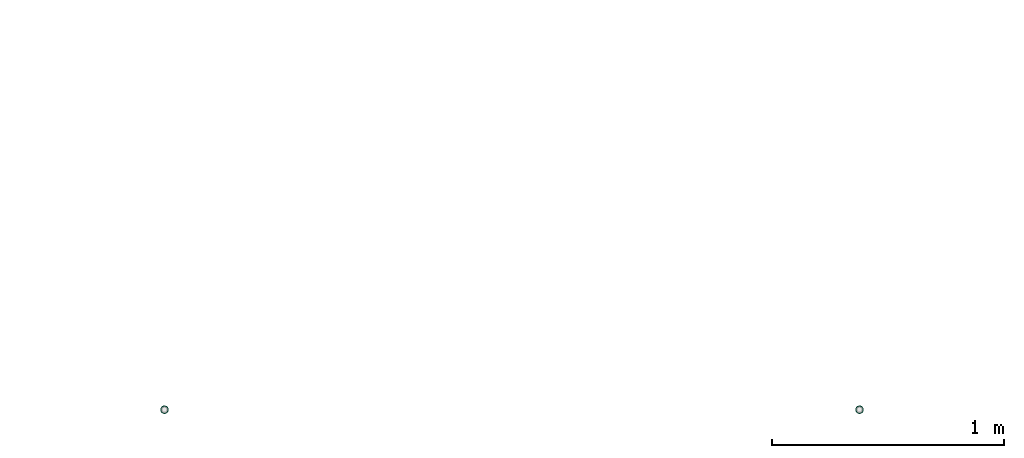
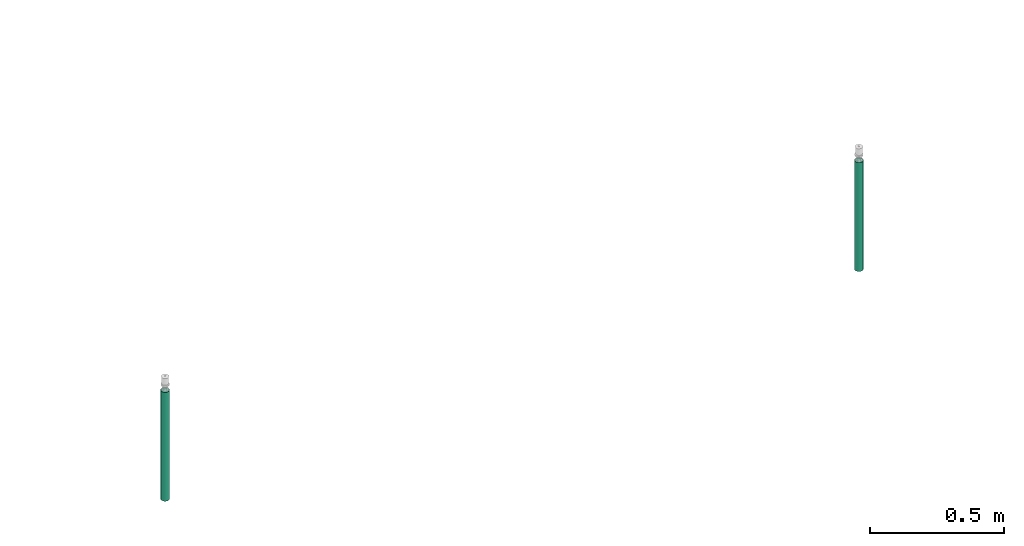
# One storey, part 37 of 44: 2 flow segments.
"""IFC2X3 building model written with IfcOpenShell, lengths in millimetres."""

from ifc_helpers import new_model, entity, si_unit, converted_unit, derived_unit, direction, frame, place, context, subcontext, project, spatial, faceted_brep, type_object, element, save


model = new_model("IFC2X3")

# Units and contexts
model_context = context("Model", 3, precision=0.01, world=frame((0.0, 4.29681676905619e-09, 0.0)), true_north=direction((4.01073788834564e-13, 1.0)))
plan_context = context("Plan", 3, precision=0.01, world=frame((0.0, 4.29681676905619e-09, 0.0)), true_north=direction((4.01073788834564e-13, 1.0)))
body_context = subcontext(model_context, "Body", "Model", "MODEL_VIEW")
ifc_project = project(units=[converted_unit("PLANEANGLEUNIT", "DEGREE", entity("IfcPositiveLengthMeasure", 0.0174532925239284), si_unit("PLANEANGLEUNIT", "RADIAN"), dimensions=[0, 0, 0, 0, 0, 0, 0]), si_unit("AREAUNIT", "SQUARE_METRE"), si_unit("LENGTHUNIT", "METRE", prefix="MILLI"), si_unit("MASSUNIT", "GRAM", prefix="KILO"), si_unit("POWERUNIT", "WATT"), si_unit("PRESSUREUNIT", "PASCAL"), si_unit("FORCEUNIT", "NEWTON", prefix="KILO"), si_unit("ELECTRICVOLTAGEUNIT", "VOLT"), si_unit("ELECTRICCURRENTUNIT", "AMPERE"), si_unit("THERMODYNAMICTEMPERATUREUNIT", "DEGREE_CELSIUS"), si_unit("TIMEUNIT", "SECOND"), si_unit("VOLUMEUNIT", "CUBIC_METRE"), derived_unit("LINEARVELOCITYUNIT", [(si_unit("LENGTHUNIT", "METRE"), 1), (si_unit("TIMEUNIT", "SECOND"), -1)]), derived_unit("VOLUMETRICFLOWRATEUNIT", [(si_unit("VOLUMEUNIT", "CUBIC_METRE"), 1), (si_unit("TIMEUNIT", "SECOND"), -1)]), derived_unit("THERMALTRANSMITTANCEUNIT", [(si_unit("POWERUNIT", "WATT"), 1), (si_unit("THERMODYNAMICTEMPERATUREUNIT", "KELVIN"), -1), (si_unit("AREAUNIT", "SQUARE_METRE"), -1)]), derived_unit("SOUNDPRESSUREUNIT", [(si_unit("PRESSUREUNIT", "PASCAL"), 1)])], contexts=[model_context, plan_context])

# Site, building, storey
site_placement = place(None, frame((0.0, -4.29681676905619e-09, 0.0), z_axis=(0.0, 0.0, 1.0), x_axis=(1.0, 0.0, 0.0)))
site = spatial("IfcSite", under=ifc_project, at=site_placement, CompositionType="ELEMENT")
building_placement = place(site_placement, frame((0.0, 4.29681676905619e-09, 0.0), z_axis=(0.0, 0.0, 1.0), x_axis=(1.0, 0.0, 0.0)))
building = spatial("IfcBuilding", under=site, at=building_placement, Name="mc-building", CompositionType="ELEMENT")
storey_placement = place(building_placement, frame((0.0, 0.0, 207370.0), z_axis=(0.0, 0.0, 1.0), x_axis=(1.0, 0.0, 0.0)))
storey = spatial("IfcBuildingStorey", under=building, at=storey_placement, Name="Nivå E", CompositionType="ELEMENT", Elevation=207370.0)

# Flow segments
pipe_segment_type = type_object("IfcPipeSegmentType", Name="Stålrør normaltykke", PredefinedType="RIGIDSEGMENT")
flow_segment_1_placement = place(storey_placement, frame((533500.0, 441009.83177, 3027.60555000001), z_axis=(-1.0, 0.0, 0.0), x_axis=(0.0, 0.0, -1.0)))
element("IfcFlowSegment", 1, at=flow_segment_1_placement, inside=storey, type_object=pipe_segment_type, Name="Stålrør normaltykke", context=body_context, shape_type="Brep", body=[
    faceted_brep([(497.605550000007, 14.9, 0.0), (497.605550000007, 14.6736355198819, -2.58735784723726), (0.0, 14.6736355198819, -2.58735784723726), (0.0, 14.9, 0.0), (497.605550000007, 14.00142004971, -5.09610013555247), (0.0, 14.00142004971, -5.09610013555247), (497.605550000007, 12.9037785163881, -7.45000000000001), (0.0, 12.9037785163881, -7.45000000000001), (497.605550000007, 11.4140622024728, -9.57753538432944), (0.0, 11.4140622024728, -9.57753538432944), (497.605550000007, 9.57753538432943, -11.4140622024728), (0.0, 9.57753538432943, -11.4140622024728), (497.605550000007, 7.45, -12.9037785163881), (0.0, 7.45, -12.9037785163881), (497.605550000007, 5.09610013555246, -14.00142004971), (0.0, 5.09610013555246, -14.00142004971), (497.605550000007, 2.58735784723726, -14.6736355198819), (0.0, 2.58735784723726, -14.6736355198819), (497.605550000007, -2.73708559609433e-15, -14.9), (0.0, -2.73708559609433e-15, -14.9), (497.605550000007, -2.58735784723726, -14.6736355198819), (0.0, -2.58735784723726, -14.6736355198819), (497.605550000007, -5.09610013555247, -14.00142004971), (0.0, -5.09610013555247, -14.00142004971), (497.605550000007, -7.45000000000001, -12.9037785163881), (0.0, -7.45000000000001, -12.9037785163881), (497.605550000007, -9.57753538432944, -11.4140622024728), (0.0, -9.57753538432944, -11.4140622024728), (497.605550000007, -11.4140622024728, -9.57753538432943), (0.0, -11.4140622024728, -9.57753538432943), (497.605550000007, -12.9037785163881, -7.44999999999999), (0.0, -12.9037785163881, -7.44999999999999), (497.605550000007, -14.00142004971, -5.09610013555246), (0.0, -14.00142004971, -5.09610013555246), (497.605550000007, -14.6736355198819, -2.58735784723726), (0.0, -14.6736355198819, -2.58735784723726), (497.605550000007, -14.9, 1.82472373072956e-15), (0.0, -14.9, 1.82472373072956e-15), (497.605550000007, -14.6736355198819, 2.58735784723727), (0.0, -14.6736355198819, 2.58735784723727), (497.605550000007, -14.00142004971, 5.09610013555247), (0.0, -14.00142004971, 5.09610013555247), (497.605550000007, -12.9037785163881, 7.45), (0.0, -12.9037785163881, 7.45), (497.605550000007, -11.4140622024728, 9.57753538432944), (0.0, -11.4140622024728, 9.57753538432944), (497.605550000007, -9.57753538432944, 11.4140622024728), (0.0, -9.57753538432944, 11.4140622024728), (497.605550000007, -7.45, 12.9037785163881), (0.0, -7.45, 12.9037785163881), (497.605550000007, -5.09610013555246, 14.00142004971), (0.0, -5.09610013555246, 14.00142004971), (497.605550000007, -2.58735784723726, 14.6736355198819), (0.0, -2.58735784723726, 14.6736355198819), (497.605550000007, 9.12361865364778e-16, 14.9), (0.0, 9.12361865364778e-16, 14.9), (497.605550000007, 2.58735784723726, 14.6736355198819), (0.0, 2.58735784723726, 14.6736355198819), (497.605550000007, 5.09610013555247, 14.00142004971), (0.0, 5.09610013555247, 14.00142004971), (497.605550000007, 7.45, 12.9037785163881), (0.0, 7.45, 12.9037785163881), (497.605550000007, 9.57753538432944, 11.4140622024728), (0.0, 9.57753538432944, 11.4140622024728), (497.605550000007, 11.4140622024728, 9.57753538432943), (0.0, 11.4140622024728, 9.57753538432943), (497.605550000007, 12.9037785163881, 7.45), (0.0, 12.9037785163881, 7.45), (497.605550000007, 14.00142004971, 5.09610013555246), (0.0, 14.00142004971, 5.09610013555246), (497.605550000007, 14.6736355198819, 2.58735784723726), (0.0, 14.6736355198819, 2.58735784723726), (497.605550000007, 16.6432510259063, -2.93465420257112), (497.605550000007, 16.9, 0.0), (0.0, 16.9, 0.0), (0.0, 16.6432510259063, -2.93465420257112), (497.605550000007, 16.6432510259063, 2.93465420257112), (0.0, 16.6432510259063, 2.93465420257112), (497.605550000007, 15.8808052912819, 5.7801404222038), (0.0, 15.8808052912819, 5.7801404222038), (497.605550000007, 14.635829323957, 8.45), (0.0, 14.635829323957, 8.45), (497.605550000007, 12.9461510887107, 10.8631106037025), (0.0, 12.9461510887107, 10.8631106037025), (497.605550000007, 10.8631106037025, 12.9461510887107), (0.0, 10.8631106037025, 12.9461510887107), (497.605550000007, 8.45, 14.635829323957), (0.0, 8.45, 14.635829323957), (497.605550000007, 5.7801404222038, 15.8808052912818), (0.0, 5.7801404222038, 15.8808052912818), (497.605550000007, 2.93465420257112, 16.6432510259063), (0.0, 2.93465420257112, 16.6432510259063), (497.605550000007, 1.03482654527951e-15, 16.9), (0.0, 1.03482654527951e-15, 16.9), (497.605550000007, -2.93465420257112, 16.6432510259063), (0.0, -2.93465420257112, 16.6432510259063), (497.605550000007, -5.7801404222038, 15.8808052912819), (0.0, -5.7801404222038, 15.8808052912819), (497.605550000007, -8.45, 14.635829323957), (0.0, -8.45, 14.635829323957), (497.605550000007, -10.8631106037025, 12.9461510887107), (0.0, -10.8631106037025, 12.9461510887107), (497.605550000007, -12.9461510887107, 10.8631106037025), (0.0, -12.9461510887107, 10.8631106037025), (497.605550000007, -14.635829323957, 8.45), (0.0, -14.635829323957, 8.45), (497.605550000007, -15.8808052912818, 5.7801404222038), (0.0, -15.8808052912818, 5.7801404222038), (497.605550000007, -16.6432510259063, 2.93465420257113), (0.0, -16.6432510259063, 2.93465420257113), (497.605550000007, -16.9, 2.06965309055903e-15), (0.0, -16.9, 2.06965309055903e-15), (497.605550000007, -16.6432510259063, -2.93465420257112), (0.0, -16.6432510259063, -2.93465420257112), (497.605550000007, -15.8808052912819, -5.7801404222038), (0.0, -15.8808052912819, -5.7801404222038), (497.605550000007, -14.635829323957, -8.44999999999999), (0.0, -14.635829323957, -8.44999999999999), (497.605550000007, -12.9461510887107, -10.8631106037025), (0.0, -12.9461510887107, -10.8631106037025), (497.605550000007, -10.8631106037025, -12.9461510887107), (0.0, -10.8631106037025, -12.9461510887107), (497.605550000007, -8.45000000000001, -14.635829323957), (0.0, -8.45000000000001, -14.635829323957), (497.605550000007, -5.78014042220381, -15.8808052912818), (0.0, -5.78014042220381, -15.8808052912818), (497.605550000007, -2.93465420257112, -16.6432510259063), (0.0, -2.93465420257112, -16.6432510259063), (497.605550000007, -3.10447963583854e-15, -16.9), (0.0, -3.10447963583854e-15, -16.9), (497.605550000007, 2.93465420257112, -16.6432510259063), (0.0, 2.93465420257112, -16.6432510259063), (497.605550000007, 5.78014042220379, -15.8808052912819), (0.0, 5.78014042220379, -15.8808052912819), (497.605550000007, 8.45, -14.635829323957), (0.0, 8.45, -14.635829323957), (497.605550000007, 10.8631106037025, -12.9461510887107), (0.0, 10.8631106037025, -12.9461510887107), (497.605550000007, 12.9461510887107, -10.8631106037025), (0.0, 12.9461510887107, -10.8631106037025), (497.605550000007, 14.635829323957, -8.45000000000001), (0.0, 14.635829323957, -8.45000000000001), (497.605550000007, 15.8808052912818, -5.78014042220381), (0.0, 15.8808052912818, -5.78014042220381)], [[[0, 1, 2, 3]], [[1, 4, 5, 2]], [[4, 6, 7, 5]], [[6, 8, 9, 7]], [[8, 10, 11, 9]], [[10, 12, 13, 11]], [[12, 14, 15, 13]], [[14, 16, 17, 15]], [[16, 18, 19, 17]], [[18, 20, 21, 19]], [[20, 22, 23, 21]], [[22, 24, 25, 23]], [[24, 26, 27, 25]], [[26, 28, 29, 27]], [[28, 30, 31, 29]], [[30, 32, 33, 31]], [[32, 34, 35, 33]], [[34, 36, 37, 35]], [[36, 38, 39, 37]], [[38, 40, 41, 39]], [[40, 42, 43, 41]], [[42, 44, 45, 43]], [[44, 46, 47, 45]], [[46, 48, 49, 47]], [[48, 50, 51, 49]], [[50, 52, 53, 51]], [[52, 54, 55, 53]], [[54, 56, 57, 55]], [[56, 58, 59, 57]], [[58, 60, 61, 59]], [[60, 62, 63, 61]], [[62, 64, 65, 63]], [[64, 66, 67, 65]], [[66, 68, 69, 67]], [[68, 70, 71, 69]], [[70, 0, 3, 71]], [[72, 73, 74, 75]], [[73, 76, 77, 74]], [[76, 78, 79, 77]], [[78, 80, 81, 79]], [[80, 82, 83, 81]], [[82, 84, 85, 83]], [[84, 86, 87, 85]], [[86, 88, 89, 87]], [[88, 90, 91, 89]], [[90, 92, 93, 91]], [[92, 94, 95, 93]], [[94, 96, 97, 95]], [[96, 98, 99, 97]], [[98, 100, 101, 99]], [[100, 102, 103, 101]], [[102, 104, 105, 103]], [[104, 106, 107, 105]], [[106, 108, 109, 107]], [[108, 110, 111, 109]], [[110, 112, 113, 111]], [[112, 114, 115, 113]], [[114, 116, 117, 115]], [[116, 118, 119, 117]], [[118, 120, 121, 119]], [[120, 122, 123, 121]], [[122, 124, 125, 123]], [[124, 126, 127, 125]], [[126, 128, 129, 127]], [[128, 130, 131, 129]], [[130, 132, 133, 131]], [[132, 134, 135, 133]], [[134, 136, 137, 135]], [[136, 138, 139, 137]], [[138, 140, 141, 139]], [[140, 142, 143, 141]], [[142, 72, 75, 143]], [[75, 74, 77, 79, 81, 83, 85, 87, 89, 91, 93, 95, 97, 99, 101, 103, 105, 107, 109, 111, 113, 115, 117, 119, 121, 123, 125, 127, 129, 131, 133, 135, 137, 139, 141, 143], [3, 2, 5, 7, 9, 11, 13, 15, 17, 19, 21, 23, 25, 27, 29, 31, 33, 35, 37, 39, 41, 43, 45, 47, 49, 51, 53, 55, 57, 59, 61, 63, 65, 67, 69, 71]], [[142, 140, 138, 136, 134, 132, 130, 128, 126, 124, 122, 120, 118, 116, 114, 112, 110, 108, 106, 104, 102, 100, 98, 96, 94, 92, 90, 88, 86, 84, 82, 80, 78, 76, 73, 72], [70, 68, 66, 64, 62, 60, 58, 56, 54, 52, 50, 48, 46, 44, 42, 40, 38, 36, 34, 32, 30, 28, 26, 24, 22, 20, 18, 16, 14, 12, 10, 8, 6, 4, 1, 0]]], orient=[[False], [False], [False], [False], [False], [False], [False], [False], [False], [False], [False], [False], [False], [False], [False], [False], [False], [False], [False], [False], [False], [False], [False], [False], [False], [False], [False], [False], [False], [False], [False], [False], [False], [False], [False], [False], [False], [False], [False], [False], [False], [False], [False], [False], [False], [False], [False], [False], [False], [False], [False], [False], [False], [False], [False], [False], [False], [False], [False], [False], [False], [False], [False], [False], [False], [False], [False], [False], [False], [False], [False], [False], [False, False], [False, False]]),
])
flow_segment_2_placement = place(storey_placement, frame((530500.0, 441009.83177, 3027.60555000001), z_axis=(1.0, 0.0, 0.0), x_axis=(0.0, 0.0, -1.0)))
element("IfcFlowSegment", 2, at=flow_segment_2_placement, inside=storey, type_object=pipe_segment_type, Name="Stålrør normaltykke", context=body_context, shape_type="Brep", body=[
    faceted_brep([(497.605550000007, 14.9, 0.0), (497.605550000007, 14.6736355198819, -2.58735784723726), (0.0, 14.6736355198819, -2.58735784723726), (0.0, 14.9, 0.0), (497.605550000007, 14.00142004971, -5.09610013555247), (0.0, 14.00142004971, -5.09610013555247), (497.605550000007, 12.9037785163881, -7.45000000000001), (0.0, 12.9037785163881, -7.45000000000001), (497.605550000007, 11.4140622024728, -9.57753538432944), (0.0, 11.4140622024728, -9.57753538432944), (497.605550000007, 9.57753538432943, -11.4140622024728), (0.0, 9.57753538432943, -11.4140622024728), (497.605550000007, 7.45, -12.9037785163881), (0.0, 7.45, -12.9037785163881), (497.605550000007, 5.09610013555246, -14.00142004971), (0.0, 5.09610013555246, -14.00142004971), (497.605550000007, 2.58735784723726, -14.6736355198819), (0.0, 2.58735784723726, -14.6736355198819), (497.605550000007, -2.73708559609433e-15, -14.9), (0.0, -2.73708559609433e-15, -14.9), (497.605550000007, -2.58735784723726, -14.6736355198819), (0.0, -2.58735784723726, -14.6736355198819), (497.605550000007, -5.09610013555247, -14.00142004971), (0.0, -5.09610013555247, -14.00142004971), (497.605550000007, -7.45000000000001, -12.9037785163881), (0.0, -7.45000000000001, -12.9037785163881), (497.605550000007, -9.57753538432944, -11.4140622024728), (0.0, -9.57753538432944, -11.4140622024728), (497.605550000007, -11.4140622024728, -9.57753538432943), (0.0, -11.4140622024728, -9.57753538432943), (497.605550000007, -12.9037785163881, -7.44999999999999), (0.0, -12.9037785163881, -7.44999999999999), (497.605550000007, -14.00142004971, -5.09610013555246), (0.0, -14.00142004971, -5.09610013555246), (497.605550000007, -14.6736355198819, -2.58735784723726), (0.0, -14.6736355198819, -2.58735784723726), (497.605550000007, -14.9, 1.82472373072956e-15), (0.0, -14.9, 1.82472373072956e-15), (497.605550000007, -14.6736355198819, 2.58735784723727), (0.0, -14.6736355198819, 2.58735784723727), (497.605550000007, -14.00142004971, 5.09610013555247), (0.0, -14.00142004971, 5.09610013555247), (497.605550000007, -12.9037785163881, 7.45), (0.0, -12.9037785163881, 7.45), (497.605550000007, -11.4140622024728, 9.57753538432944), (0.0, -11.4140622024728, 9.57753538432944), (497.605550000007, -9.57753538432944, 11.4140622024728), (0.0, -9.57753538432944, 11.4140622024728), (497.605550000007, -7.45, 12.9037785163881), (0.0, -7.45, 12.9037785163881), (497.605550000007, -5.09610013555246, 14.00142004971), (0.0, -5.09610013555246, 14.00142004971), (497.605550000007, -2.58735784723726, 14.6736355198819), (0.0, -2.58735784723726, 14.6736355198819), (497.605550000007, 9.12361865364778e-16, 14.9), (0.0, 9.12361865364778e-16, 14.9), (497.605550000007, 2.58735784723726, 14.6736355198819), (0.0, 2.58735784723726, 14.6736355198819), (497.605550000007, 5.09610013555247, 14.00142004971), (0.0, 5.09610013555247, 14.00142004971), (497.605550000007, 7.45, 12.9037785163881), (0.0, 7.45, 12.9037785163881), (497.605550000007, 9.57753538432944, 11.4140622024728), (0.0, 9.57753538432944, 11.4140622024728), (497.605550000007, 11.4140622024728, 9.57753538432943), (0.0, 11.4140622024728, 9.57753538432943), (497.605550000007, 12.9037785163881, 7.45), (0.0, 12.9037785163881, 7.45), (497.605550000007, 14.00142004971, 5.09610013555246), (0.0, 14.00142004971, 5.09610013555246), (497.605550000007, 14.6736355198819, 2.58735784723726), (0.0, 14.6736355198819, 2.58735784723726), (497.605550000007, 16.6432510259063, -2.93465420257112), (497.605550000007, 16.9, 0.0), (0.0, 16.9, 0.0), (0.0, 16.6432510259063, -2.93465420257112), (497.605550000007, 16.6432510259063, 2.93465420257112), (0.0, 16.6432510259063, 2.93465420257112), (497.605550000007, 15.8808052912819, 5.7801404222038), (0.0, 15.8808052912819, 5.7801404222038), (497.605550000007, 14.635829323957, 8.45), (0.0, 14.635829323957, 8.45), (497.605550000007, 12.9461510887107, 10.8631106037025), (0.0, 12.9461510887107, 10.8631106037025), (497.605550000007, 10.8631106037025, 12.9461510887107), (0.0, 10.8631106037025, 12.9461510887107), (497.605550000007, 8.45, 14.635829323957), (0.0, 8.45, 14.635829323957), (497.605550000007, 5.7801404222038, 15.8808052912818), (0.0, 5.7801404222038, 15.8808052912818), (497.605550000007, 2.93465420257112, 16.6432510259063), (0.0, 2.93465420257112, 16.6432510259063), (497.605550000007, 1.03482654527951e-15, 16.9), (0.0, 1.03482654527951e-15, 16.9), (497.605550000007, -2.93465420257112, 16.6432510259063), (0.0, -2.93465420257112, 16.6432510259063), (497.605550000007, -5.7801404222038, 15.8808052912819), (0.0, -5.7801404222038, 15.8808052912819), (497.605550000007, -8.45, 14.635829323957), (0.0, -8.45, 14.635829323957), (497.605550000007, -10.8631106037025, 12.9461510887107), (0.0, -10.8631106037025, 12.9461510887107), (497.605550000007, -12.9461510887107, 10.8631106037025), (0.0, -12.9461510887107, 10.8631106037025), (497.605550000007, -14.635829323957, 8.45), (0.0, -14.635829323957, 8.45), (497.605550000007, -15.8808052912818, 5.7801404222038), (0.0, -15.8808052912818, 5.7801404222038), (497.605550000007, -16.6432510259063, 2.93465420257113), (0.0, -16.6432510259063, 2.93465420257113), (497.605550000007, -16.9, 2.06965309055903e-15), (0.0, -16.9, 2.06965309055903e-15), (497.605550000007, -16.6432510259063, -2.93465420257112), (0.0, -16.6432510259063, -2.93465420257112), (497.605550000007, -15.8808052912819, -5.7801404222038), (0.0, -15.8808052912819, -5.7801404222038), (497.605550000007, -14.635829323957, -8.44999999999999), (0.0, -14.635829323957, -8.44999999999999), (497.605550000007, -12.9461510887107, -10.8631106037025), (0.0, -12.9461510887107, -10.8631106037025), (497.605550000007, -10.8631106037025, -12.9461510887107), (0.0, -10.8631106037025, -12.9461510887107), (497.605550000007, -8.45000000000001, -14.635829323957), (0.0, -8.45000000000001, -14.635829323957), (497.605550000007, -5.78014042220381, -15.8808052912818), (0.0, -5.78014042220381, -15.8808052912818), (497.605550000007, -2.93465420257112, -16.6432510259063), (0.0, -2.93465420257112, -16.6432510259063), (497.605550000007, -3.10447963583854e-15, -16.9), (0.0, -3.10447963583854e-15, -16.9), (497.605550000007, 2.93465420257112, -16.6432510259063), (0.0, 2.93465420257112, -16.6432510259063), (497.605550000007, 5.78014042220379, -15.8808052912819), (0.0, 5.78014042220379, -15.8808052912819), (497.605550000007, 8.45, -14.635829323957), (0.0, 8.45, -14.635829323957), (497.605550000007, 10.8631106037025, -12.9461510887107), (0.0, 10.8631106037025, -12.9461510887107), (497.605550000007, 12.9461510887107, -10.8631106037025), (0.0, 12.9461510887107, -10.8631106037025), (497.605550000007, 14.635829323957, -8.45000000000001), (0.0, 14.635829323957, -8.45000000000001), (497.605550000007, 15.8808052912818, -5.78014042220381), (0.0, 15.8808052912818, -5.78014042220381)], [[[0, 1, 2, 3]], [[1, 4, 5, 2]], [[4, 6, 7, 5]], [[6, 8, 9, 7]], [[8, 10, 11, 9]], [[10, 12, 13, 11]], [[12, 14, 15, 13]], [[14, 16, 17, 15]], [[16, 18, 19, 17]], [[18, 20, 21, 19]], [[20, 22, 23, 21]], [[22, 24, 25, 23]], [[24, 26, 27, 25]], [[26, 28, 29, 27]], [[28, 30, 31, 29]], [[30, 32, 33, 31]], [[32, 34, 35, 33]], [[34, 36, 37, 35]], [[36, 38, 39, 37]], [[38, 40, 41, 39]], [[40, 42, 43, 41]], [[42, 44, 45, 43]], [[44, 46, 47, 45]], [[46, 48, 49, 47]], [[48, 50, 51, 49]], [[50, 52, 53, 51]], [[52, 54, 55, 53]], [[54, 56, 57, 55]], [[56, 58, 59, 57]], [[58, 60, 61, 59]], [[60, 62, 63, 61]], [[62, 64, 65, 63]], [[64, 66, 67, 65]], [[66, 68, 69, 67]], [[68, 70, 71, 69]], [[70, 0, 3, 71]], [[72, 73, 74, 75]], [[73, 76, 77, 74]], [[76, 78, 79, 77]], [[78, 80, 81, 79]], [[80, 82, 83, 81]], [[82, 84, 85, 83]], [[84, 86, 87, 85]], [[86, 88, 89, 87]], [[88, 90, 91, 89]], [[90, 92, 93, 91]], [[92, 94, 95, 93]], [[94, 96, 97, 95]], [[96, 98, 99, 97]], [[98, 100, 101, 99]], [[100, 102, 103, 101]], [[102, 104, 105, 103]], [[104, 106, 107, 105]], [[106, 108, 109, 107]], [[108, 110, 111, 109]], [[110, 112, 113, 111]], [[112, 114, 115, 113]], [[114, 116, 117, 115]], [[116, 118, 119, 117]], [[118, 120, 121, 119]], [[120, 122, 123, 121]], [[122, 124, 125, 123]], [[124, 126, 127, 125]], [[126, 128, 129, 127]], [[128, 130, 131, 129]], [[130, 132, 133, 131]], [[132, 134, 135, 133]], [[134, 136, 137, 135]], [[136, 138, 139, 137]], [[138, 140, 141, 139]], [[140, 142, 143, 141]], [[142, 72, 75, 143]], [[75, 74, 77, 79, 81, 83, 85, 87, 89, 91, 93, 95, 97, 99, 101, 103, 105, 107, 109, 111, 113, 115, 117, 119, 121, 123, 125, 127, 129, 131, 133, 135, 137, 139, 141, 143], [3, 2, 5, 7, 9, 11, 13, 15, 17, 19, 21, 23, 25, 27, 29, 31, 33, 35, 37, 39, 41, 43, 45, 47, 49, 51, 53, 55, 57, 59, 61, 63, 65, 67, 69, 71]], [[142, 140, 138, 136, 134, 132, 130, 128, 126, 124, 122, 120, 118, 116, 114, 112, 110, 108, 106, 104, 102, 100, 98, 96, 94, 92, 90, 88, 86, 84, 82, 80, 78, 76, 73, 72], [70, 68, 66, 64, 62, 60, 58, 56, 54, 52, 50, 48, 46, 44, 42, 40, 38, 36, 34, 32, 30, 28, 26, 24, 22, 20, 18, 16, 14, 12, 10, 8, 6, 4, 1, 0]]], orient=[[False], [False], [False], [False], [False], [False], [False], [False], [False], [False], [False], [False], [False], [False], [False], [False], [False], [False], [False], [False], [False], [False], [False], [False], [False], [False], [False], [False], [False], [False], [False], [False], [False], [False], [False], [False], [False], [False], [False], [False], [False], [False], [False], [False], [False], [False], [False], [False], [False], [False], [False], [False], [False], [False], [False], [False], [False], [False], [False], [False], [False], [False], [False], [False], [False], [False], [False], [False], [False], [False], [False], [False], [False, False], [False, False]]),
])

save(model, "model.ifc")
